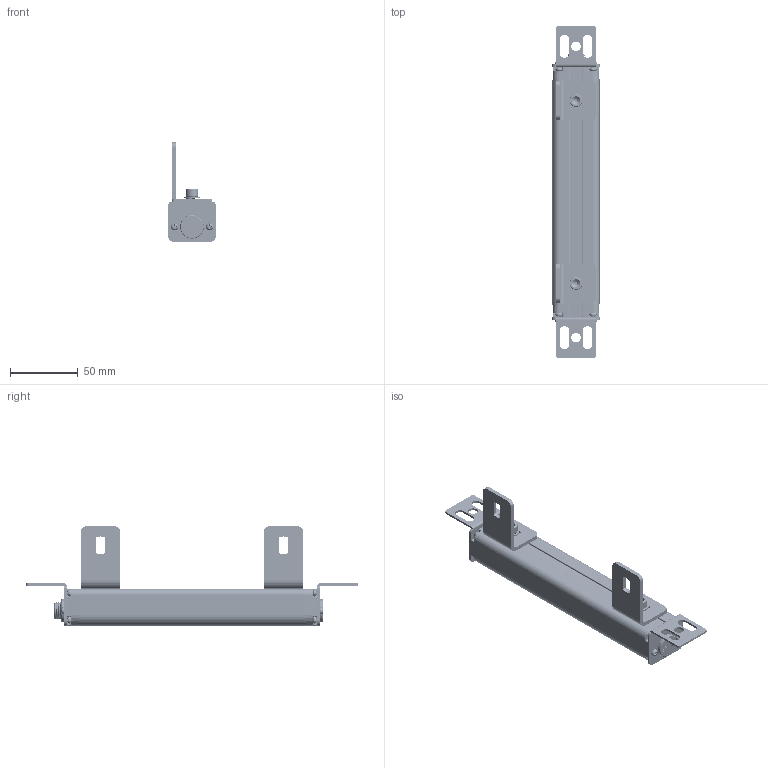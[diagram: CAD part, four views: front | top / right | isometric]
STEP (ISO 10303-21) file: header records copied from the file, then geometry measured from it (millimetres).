
FILE_DESCRIPTION((''),'2;1');
FILE_NAME('ELG-0440_ASM','2021-08-07T10:47:14',('18720616900'),(''),'CREO PARAMETRIC BY PTC INC, 2019010','CREO PARAMETRIC BY PTC INC, 2019010','');
FILE_SCHEMA(('CONFIG_CONTROL_DESIGN'));
Products named in the file (18): ELG--00; ELG--000; ELG000; M3--0001; 3000; 3--0001; ELG_30001_ASM; ST-3-12; L20001; M3-6; L10001; M6-1--00; M6-1-00; M6-8--0001; 00; L1--0001_ASM; ELG-0440_ASM
Assembly tree (34 placements, depth 3):
  ELG-0440_ASM
    ELG--00
    ELG--000
    ELG000
    ELG000
    M3--0001  x4
    ELG_30001_ASM
      3000
      3--0001  x3
    ST-3-12  x8
    L20001  x2
    M3-6  x4
    L1--0001_ASM  x2
      L10001
      M6-1--00
      M6-1-00
      M6-8--0001
      00
Bounding box: 35 x 245 x 73.4 mm (x, y, z)
Volume: 175609.6 mm3; surface area: 64863.9 mm2
Topology: 36 solids, 36 shells, 3404 faces, 9468 edges, 6167 vertices
Faces by surface type: cylinder 1928, plane 616, bspline 398, cone 353, torus 99, sphere 10
Entity records: 68753 total; most frequent: CARTESIAN_POINT 35026, ORIENTED_EDGE 7326, DIRECTION 6679, EDGE_CURVE 3663, AXIS2_PLACEMENT_3D 2530, VERTEX_POINT 2387, VECTOR 1619, LINE 1619
